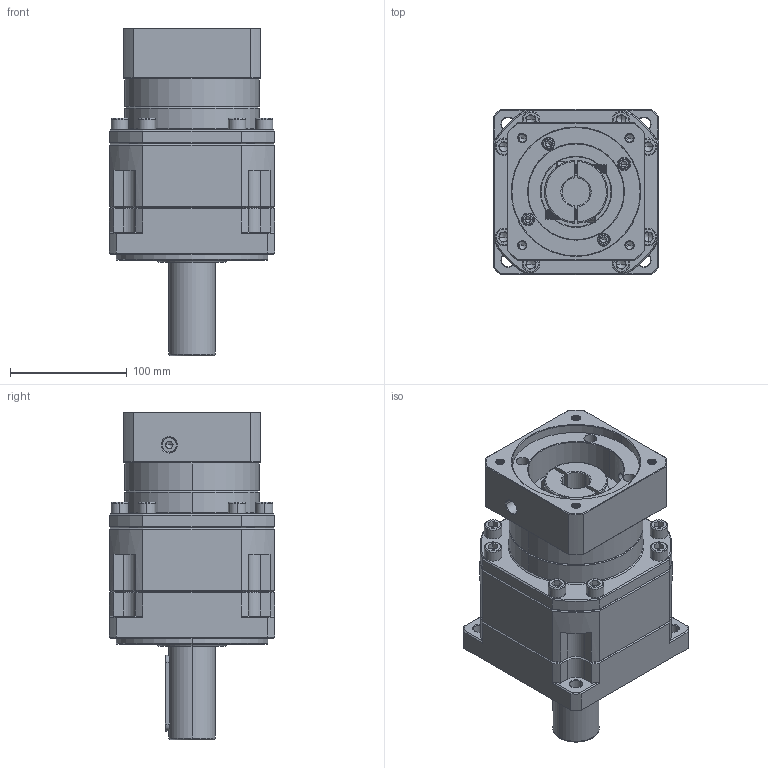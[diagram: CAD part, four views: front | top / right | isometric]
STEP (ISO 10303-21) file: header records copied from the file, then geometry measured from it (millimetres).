
FILE_DESCRIPTION (( 'STEP AP214' ), '1' );
FILE_NAME ('ZB142A-D40-L2-P2-24-110-130-M8.step', '2023-09-02T02:50:20', ( '' ), ( '' ), 'SwSTEP 2.0', 'SolidWorks 2016', '' );
FILE_SCHEMA (( 'AUTOMOTIVE_DESIGN' ));
Length unit declared in the file: millimetre
Products named in the file (1): ZB142A-D40-L2-P2-24-110-130-M8
Bounding box: 142 x 142 x 280.7 mm (x, y, z)
Volume: 2940027.2 mm3; surface area: 239129.9 mm2
Topology: 6 solids, 6 shells, 2543 faces, 6645 edges, 4228 vertices
Faces by surface type: plane 1205, cylinder 490, bspline 405, cone 385, torus 58
Entity records: 135597 total; most frequent: CARTESIAN_POINT 48448, ORIENTED_EDGE 13182, DIRECTION 10795, EDGE_CURVE 6591, VERTEX_POINT 4228, VECTOR 4207, LINE 4207, AXIS2_PLACEMENT_3D 3294
